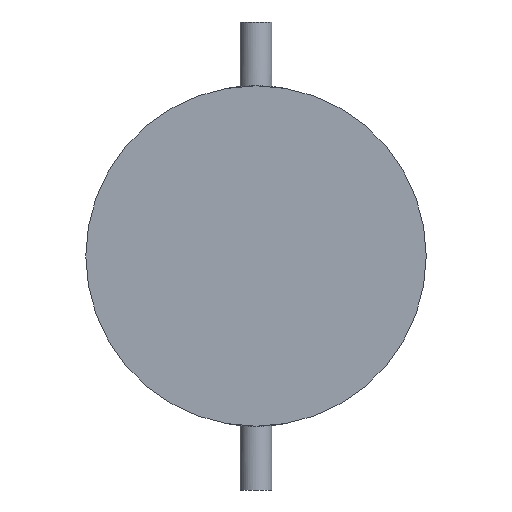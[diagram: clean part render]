
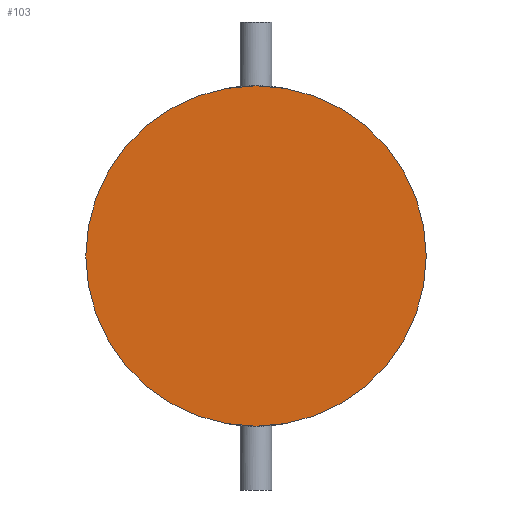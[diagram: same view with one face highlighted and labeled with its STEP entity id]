
A CAD part, front view. The second image highlights one B-rep face of the part: STEP entity #103.
In plain terms, the highlighted planar face has unit normal (0, -1, 0).
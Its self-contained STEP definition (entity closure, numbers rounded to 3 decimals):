
#18=PLANE('',#120);
#36=FACE_OUTER_BOUND('',#51,.T.);
#51=EDGE_LOOP('',(#89));
#56=CIRCLE('',#114,16.);
#64=VERTEX_POINT('',#234);
#72=EDGE_CURVE('',#64,#64,#56,.T.);
#89=ORIENTED_EDGE('',*,*,#72,.T.);
#103=ADVANCED_FACE('',(#36),#18,.F.);
#114=AXIS2_PLACEMENT_3D('',#235,#138,#139);
#120=AXIS2_PLACEMENT_3D('',#244,#150,#151);
#138=DIRECTION('center_axis',(0.,-1.,0.));
#139=DIRECTION('ref_axis',(1.,0.,0.));
#150=DIRECTION('center_axis',(0.,1.,0.));
#151=DIRECTION('ref_axis',(0.,0.,1.));
#234=CARTESIAN_POINT('',(-16.,0.,0.));
#235=CARTESIAN_POINT('Origin',(0.,0.,0.));
#244=CARTESIAN_POINT('Origin',(0.,0.,0.));
